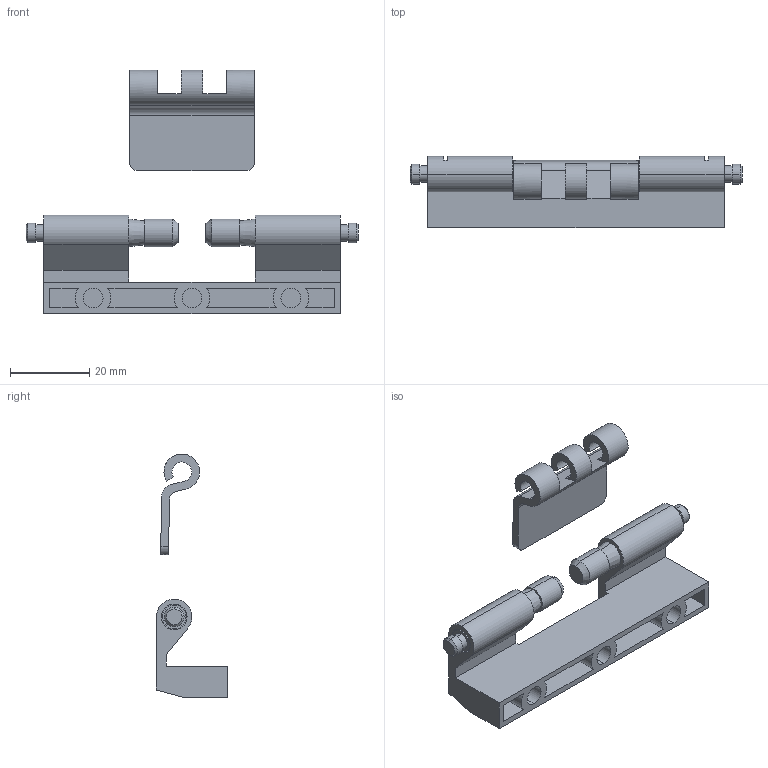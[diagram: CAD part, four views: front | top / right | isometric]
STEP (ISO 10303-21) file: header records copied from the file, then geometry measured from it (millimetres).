
FILE_DESCRIPTION (( 'STEP AP203' ), '1' );
FILE_NAME ('XG02-022-2.STEP', '2025-07-17T01:44:44', ( '微软用户' ), ( '微软中国' ), 'SwSTEP 2.0', 'SolidWorks 2024', '' );
FILE_SCHEMA (( 'CONFIG_CONTROL_DESIGN' ));
Length unit declared in the file: millimetre
Products named in the file (3): XG02-022-2; XG02-022-2附件
Assembly tree (2 placements, depth 2):
  XG02-022-2
    XG02-022-2
    XG02-022-2附件
Bounding box: 84 x 18 x 61.69 mm (x, y, z)
Volume: 13913 mm3; surface area: 11127.9 mm2
Topology: 2 solids, 2 shells, 130 faces, 313 edges, 206 vertices
Faces by surface type: plane 70, cylinder 48, cone 12
Entity records: 4118 total; most frequent: DIRECTION 703, CARTESIAN_POINT 654, ORIENTED_EDGE 626, EDGE_CURVE 313, AXIS2_PLACEMENT_3D 255, VERTEX_POINT 206, LINE 193, VECTOR 193
